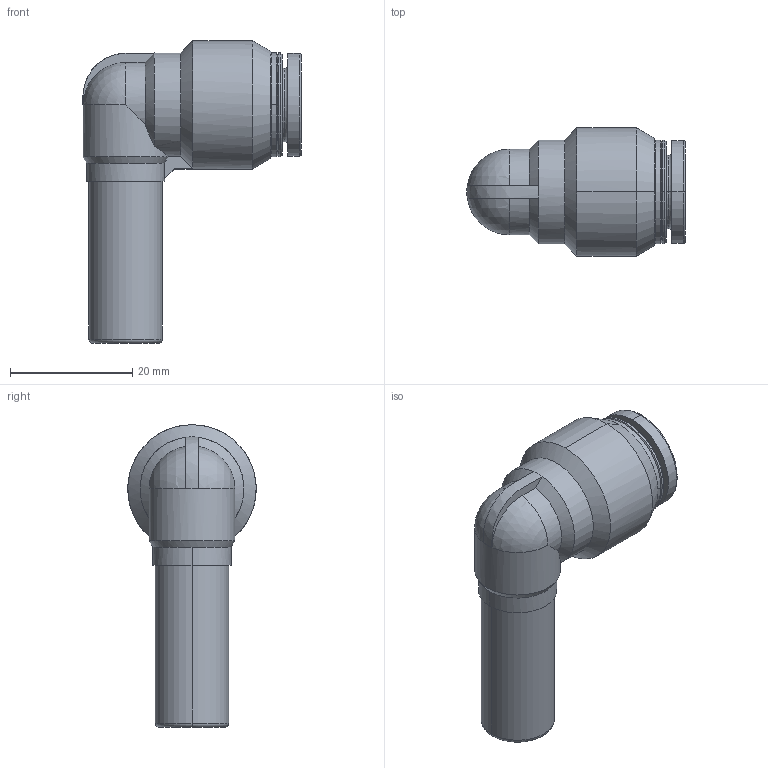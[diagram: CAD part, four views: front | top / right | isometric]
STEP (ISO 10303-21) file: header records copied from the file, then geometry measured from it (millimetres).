
FILE_DESCRIPTION(/* description */ ('AP214 STEP file'),/* implementation_level */ '2;1');
FILE_NAME(/* name */ 'PLGJ12-10',/* time_stamp */ '2012-10-04T11:46:01+09:00',/* author */ (''),/* organization */ (''),/* preprocessor_version */ '.stp',/* originating_system */ 'UNIGRAPHICS',/* authorisation */ '');
FILE_SCHEMA (('AUTOMOTIVE_DESIGN'));
Length unit declared in the file: millimetre
Products named in the file (1): PLGJ12-10
Bounding box: 35.7 x 21 x 49.5 mm (x, y, z)
Volume: 10727.4 mm3; surface area: 4460.8 mm2
Topology: 1 solids, 1 shells, 57 faces, 135 edges, 83 vertices
Faces by surface type: cylinder 20, cone 14, plane 12, torus 6, sphere 4, bspline 1
Entity records: 1635 total; most frequent: CARTESIAN_POINT 382, ORIENTED_EDGE 266, EDGE_CURVE 133, STYLED_ITEM 133, AXIS2_PLACEMENT_3D 131, VERTEX_POINT 83, DIRECTION 72, CIRCLE 68
